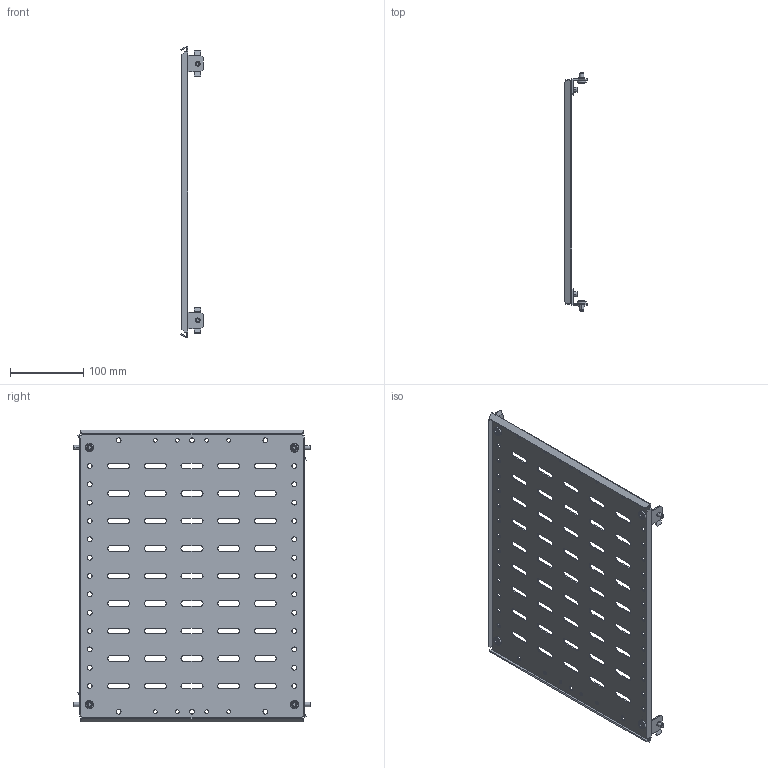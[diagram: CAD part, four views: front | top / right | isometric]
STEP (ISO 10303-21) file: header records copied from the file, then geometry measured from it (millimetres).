
FILE_DESCRIPTION (( 'STEP AP214' ), '1' );
FILE_NAME ('FO-00-SWF-040-040 Ïåðåãîðîäêà ñåêöèîíèðîâàíèÿ çàäíÿÿ 400õ400 ìì.STEP', '2025-08-12T08:33:07', ( '' ), ( '' ), 'SwSTEP 2.0', 'SolidWorks 2023', '' );
FILE_SCHEMA (( 'AUTOMOTIVE_DESIGN' ));
Length unit declared in the file: millimetre
Products named in the file (1): FO-00-SWF-040-040 Перегородка секционирования задняя 400х400 мм
Bounding box: 30.52 x 324 x 397.66 mm (x, y, z)
Volume: 192508.4 mm3; surface area: 256515 mm2
Topology: 1 solids, 5 shells, 709 faces, 1969 edges, 1290 vertices
Faces by surface type: cylinder 391, plane 262, cone 24, torus 24, sphere 8
Entity records: 23400 total; most frequent: CARTESIAN_POINT 4237, DIRECTION 4119, ORIENTED_EDGE 3938, EDGE_CURVE 1969, AXIS2_PLACEMENT_3D 1508, VERTEX_POINT 1290, VECTOR 1103, LINE 1103
